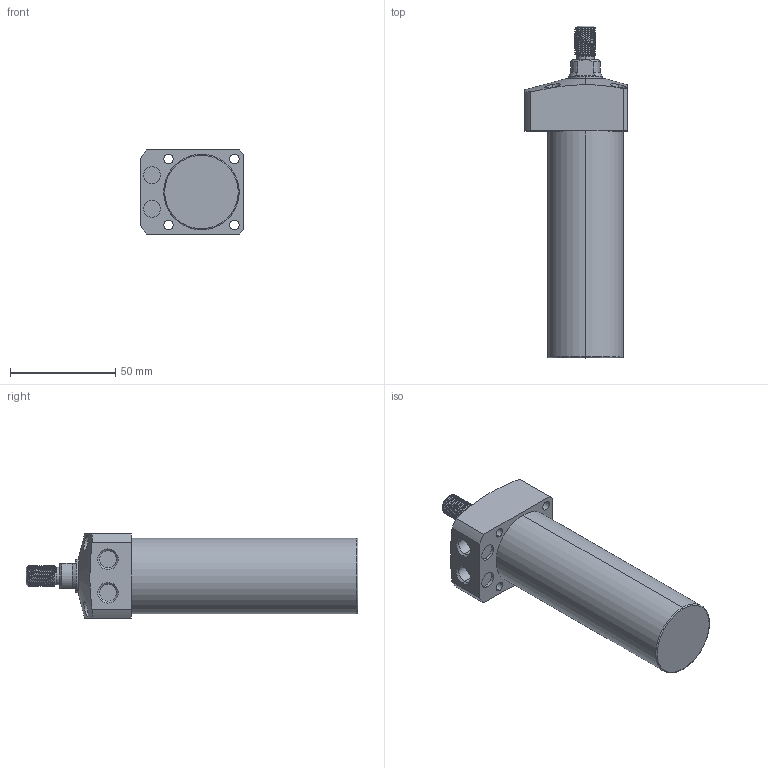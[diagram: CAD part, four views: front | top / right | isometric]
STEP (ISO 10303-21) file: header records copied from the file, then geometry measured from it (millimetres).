
FILE_DESCRIPTION (( 'STEP AP203' ), '1' );
FILE_NAME ('CLL-036CT-085.STEP', '2020-01-08T08:50:01', ( '' ), ( '' ), 'SwSTEP 2.0', 'SolidWorks 2015', '' );
FILE_SCHEMA (( 'CONFIG_CONTROL_DESIGN' ));
Length unit declared in the file: millimetre
Products named in the file (1): CLL-036CT-085
Bounding box: 49 x 158 x 40 mm (x, y, z)
Volume: 152838.8 mm3; surface area: 22865.2 mm2
Topology: 1 solids, 1 shells, 103 faces, 256 edges, 166 vertices
Faces by surface type: cylinder 61, plane 23, cone 15, torus 2, bspline 2
Entity records: 5000 total; most frequent: CARTESIAN_POINT 2604, ORIENTED_EDGE 512, DIRECTION 457, EDGE_CURVE 256, AXIS2_PLACEMENT_3D 184, VERTEX_POINT 166, EDGE_LOOP 122, FACE_OUTER_BOUND 103
